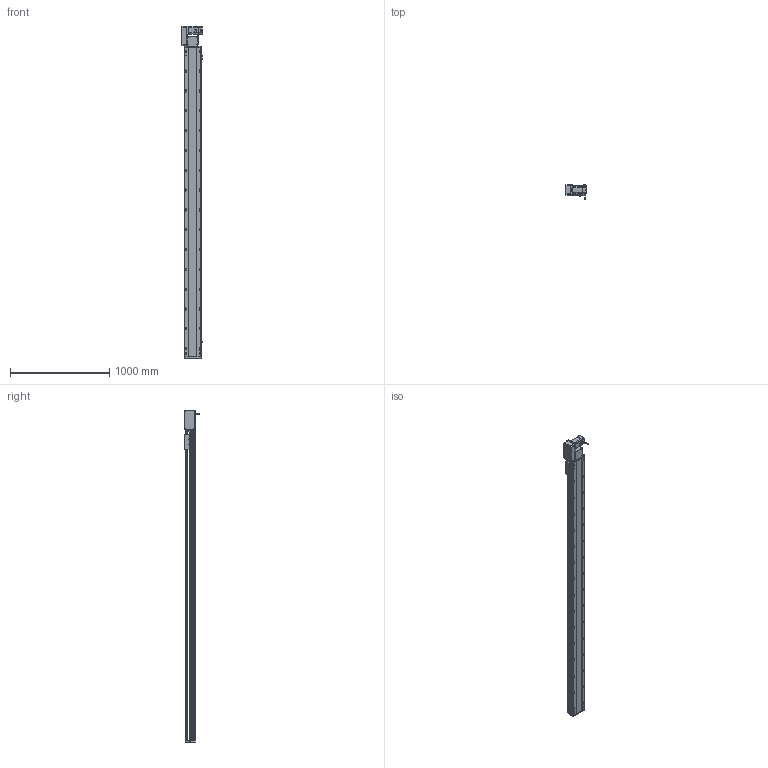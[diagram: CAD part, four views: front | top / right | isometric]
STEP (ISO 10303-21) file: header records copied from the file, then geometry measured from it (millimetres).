
FILE_DESCRIPTION (( 'STEP AP214' ), '1' );
FILE_NAME ('RTB17S-XX-2850-L-M75-C4.STEP', '2025-12-12T00:23:47', ( '' ), ( '' ), 'SwSTEP 2.0', 'SolidWorks 2018', '' );
FILE_SCHEMA (( 'AUTOMOTIVE_DESIGN' ));
Length unit declared in the file: millimetre
Products named in the file (15): RTB17S-L-々湍釱蚾饜-750W^RTB17S-XX-XX-L-M75-C4; RTB22S-GY-018P^RTB17S-L-々湍釱蚾饜-750W_RTB17S-XX-XX-L-M75-C4; RTB17-R-011菁釱^RTB17S-XX-XX-L-M75-C4; RTB17S-L-004-賑釱^RTB17S-賑釱_RTB17S-XX-XX-L-M75-C4; RMP17S-L-014-T20-P75--々湍釱^RTB17S-L-々湍釱蚾饜-750W_RTB17S-XX-XX-L-M75-C4; RTB22S-GY-008-M75--萇儂啣^RTB17S-L-々湍釱蚾饜-750W_RTB17S-XX-XX-L-M75-C4; EE672^RTB17S-XX-XX-L-M75-C4; RTB22S-GY-005P^RTB17S-L-々湍釱蚾饜-750W_RTB17S-XX-XX-L-M75-C4; RTB17S-XX-2850-L-M75-C4; RTB22S-GY-017P^RTB17S-L-々湍釱蚾饜-750W_RTB17S-XX-XX-L-M75-C4; 750W萇儂^RTB17S-XX-XX-L-M75-C4; RTB17S-賑釱^RTB17S-XX-XX-L-M75-C4; RTB17S-L-001-耜醱啣^RTB17S-XX-XX-L-M75-C4; RTH13-BL-012覜茼え俋离^RTB17S-賑釱_RTB17S-XX-XX-L-M75-C4; RTB17S-L-007奻裔^RTB17S-XX-XX-L-M75-C4
Assembly tree (17 placements, depth 3):
  RTB17S-XX-2850-L-M75-C4
    RTB17-R-011菁釱^RTB17S-XX-XX-L-M75-C4
    EE672^RTB17S-XX-XX-L-M75-C4  x3
    RTB17S-L-001-耜醱啣^RTB17S-XX-XX-L-M75-C4
    RTB17S-賑釱^RTB17S-XX-XX-L-M75-C4
      RTB17S-L-004-賑釱^RTB17S-賑釱_RTB17S-XX-XX-L-M75-C4
      RTH13-BL-012覜茼え俋离^RTB17S-賑釱_RTB17S-XX-XX-L-M75-C4
    RTB17S-L-007奻裔^RTB17S-XX-XX-L-M75-C4
    750W萇儂^RTB17S-XX-XX-L-M75-C4
    RTB17S-L-々湍釱蚾饜-750W^RTB17S-XX-XX-L-M75-C4
      RMP17S-L-014-T20-P75--々湍釱^RTB17S-L-々湍釱蚾饜-750W_RTB17S-XX-XX-L-M75-C4
      RTB22S-GY-005P^RTB17S-L-々湍釱蚾饜-750W_RTB17S-XX-XX-L-M75-C4
      RTB22S-GY-017P^RTB17S-L-々湍釱蚾饜-750W_RTB17S-XX-XX-L-M75-C4  x2
      RTB22S-GY-008-M75--萇儂啣^RTB17S-L-々湍釱蚾饜-750W_RTB17S-XX-XX-L-M75-C4
      RTB22S-GY-018P^RTB17S-L-々湍釱蚾饜-750W_RTB17S-XX-XX-L-M75-C4
Bounding box: 210.4 x 152.7 x 3349 mm (x, y, z)
Volume: 23760540.7 mm3; surface area: 4345126.7 mm2
Topology: 17 solids, 17 shells, 2249 faces, 6322 edges, 4094 vertices
Faces by surface type: plane 990, cylinder 843, bspline 294, cone 110, sphere 8, torus 4
Entity records: 65782 total; most frequent: CARTESIAN_POINT 19586, ORIENTED_EDGE 9488, DIRECTION 8762, EDGE_CURVE 4744, AXIS2_PLACEMENT_3D 3114, VERTEX_POINT 3098, VECTOR 2534, LINE 2534
